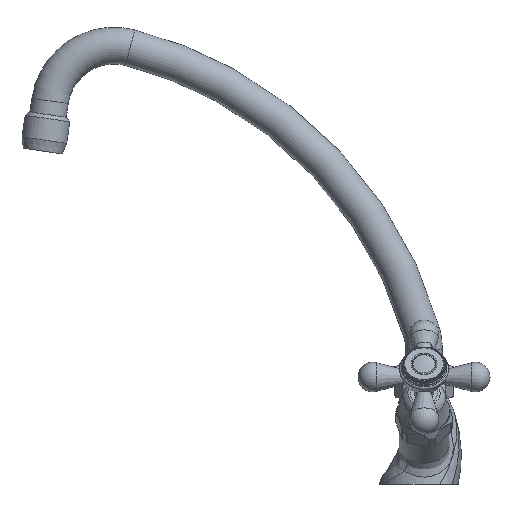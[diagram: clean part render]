
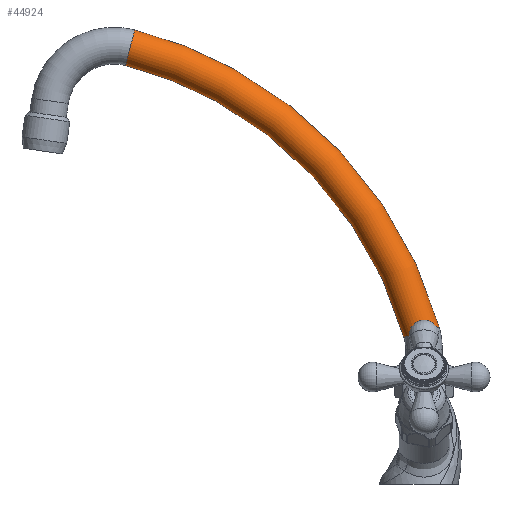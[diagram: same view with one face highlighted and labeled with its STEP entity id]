
A CAD part, left-side view. The second image highlights one B-rep face of the part: STEP entity #44924.
In plain terms, the highlighted toroidal (fillet/blend) face has major radius 211.119 mm and minor radius 9.5 mm.
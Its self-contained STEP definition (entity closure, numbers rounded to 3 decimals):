
#44924=ADVANCED_FACE('',(#111039,#111041),#111043,.T.);
#111039=FACE_OUTER_BOUND('',#111040,.T.);
#111040=EDGE_LOOP('',(#134180));
#111041=FACE_OUTER_BOUND('',#111042,.T.);
#111042=EDGE_LOOP('',(#134181));
#111043=TOROIDAL_SURFACE('',#111044,211.119,9.5);
#111044=AXIS2_PLACEMENT_3D('',#111045,#111046,#111047);
#111045=CARTESIAN_POINT('',(0.,204.41,-38.467));
#111046=DIRECTION('',(-1.,0.,0.));
#111047=DIRECTION('',(0.,-0.962,0.272));
#134180=ORIENTED_EDGE('',*,*,#145740,.F.);
#134181=ORIENTED_EDGE('',*,*,#145741,.T.);
#145740=EDGE_CURVE('',#163939,#163939,#163940,.T.);
#145741=EDGE_CURVE('',#163941,#163941,#163942,.T.);
#163939=VERTEX_POINT('',#268483);
#163940=CIRCLE('',#268484,9.5);
#163941=VERTEX_POINT('',#268488);
#163942=CIRCLE('',#268489,9.5);
#268483=CARTESIAN_POINT('',(0.,154.29,156.823));
#268484=AXIS2_PLACEMENT_3D('',#268485,#268486,#268487);
#268485=CARTESIAN_POINT('',(0.,151.928,166.025));
#268486=DIRECTION('',(0.,0.969,0.249));
#268487=DIRECTION('',(0.,0.249,-0.969));
#268488=CARTESIAN_POINT('',(0.,10.373,16.305));
#268489=AXIS2_PLACEMENT_3D('',#268490,#268491,#268492);
#268490=CARTESIAN_POINT('',(0.,1.23,18.885));
#268491=DIRECTION('',(0.,0.272,0.962));
#268492=DIRECTION('',(0.,0.962,-0.272));
